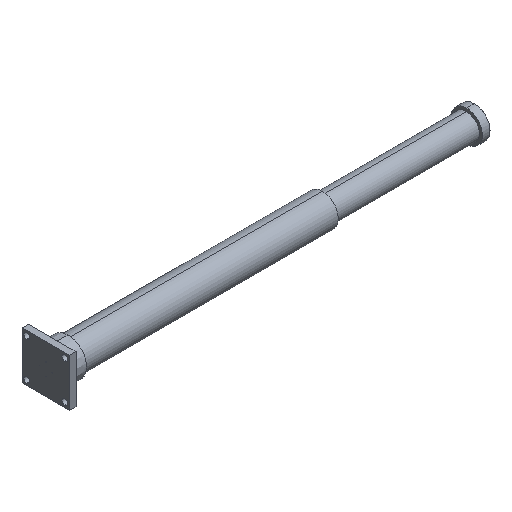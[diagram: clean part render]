
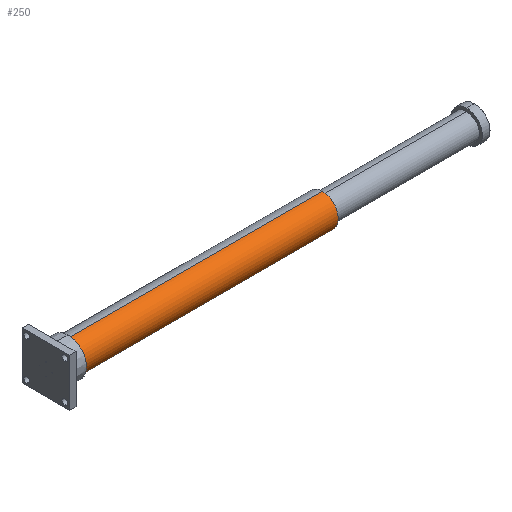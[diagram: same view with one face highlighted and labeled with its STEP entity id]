
A CAD part, isometric view. The second image highlights one B-rep face of the part: STEP entity #250.
In plain terms, the highlighted cylindrical face has radius 50 mm (diameter 100 mm), a partial arc.
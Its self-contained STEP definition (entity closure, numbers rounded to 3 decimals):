
#25 = CARTESIAN_POINT ( 'NONE',  ( 50., 0., -50. ) ) ;
#93 = DIRECTION ( 'NONE',  ( 0., 0., 1. ) ) ;
#142 = DIRECTION ( 'NONE',  ( -1., 0., 0. ) ) ;
#162 = CIRCLE ( 'NONE', #868, 50. ) ;
#211 = DIRECTION ( 'NONE',  ( 0., 0., 1. ) ) ;
#217 = DIRECTION ( 'NONE',  ( -1., 0., 0. ) ) ;
#239 = CARTESIAN_POINT ( 'NONE',  ( 850., 0., 0. ) ) ;
#250 = ADVANCED_FACE ( 'NONE', ( #510 ), #949, .T. ) ;
#311 = EDGE_LOOP ( 'NONE', ( #1038, #1000, #909, #421 ) ) ;
#342 = VERTEX_POINT ( 'NONE', #467 ) ;
#346 = VERTEX_POINT ( 'NONE', #537 ) ;
#374 = AXIS2_PLACEMENT_3D ( 'NONE', #971, #1162, #93 ) ;
#405 = CIRCLE ( 'NONE', #1131, 50. ) ;
#421 = ORIENTED_EDGE ( 'NONE', *, *, #710, .T. ) ;
#467 = CARTESIAN_POINT ( 'NONE',  ( 50., 0., 50. ) ) ;
#510 = FACE_OUTER_BOUND ( 'NONE', #311, .T. ) ;
#537 = CARTESIAN_POINT ( 'NONE',  ( 850., 0., -50. ) ) ;
#631 = CARTESIAN_POINT ( 'NONE',  ( 850., 0., -50. ) ) ;
#710 = EDGE_CURVE ( 'NONE', #342, #1088, #162, .T. ) ;
#775 = VERTEX_POINT ( 'NONE', #1071 ) ;
#793 = LINE ( 'NONE', #881, #820 ) ;
#820 = VECTOR ( 'NONE', #847, 1000. ) ;
#847 = DIRECTION ( 'NONE',  ( -1., 0., 0. ) ) ;
#862 = VECTOR ( 'NONE', #217, 1000. ) ;
#865 = EDGE_CURVE ( 'NONE', #346, #775, #405, .T. ) ;
#868 = AXIS2_PLACEMENT_3D ( 'NONE', #946, #950, #956 ) ;
#881 = CARTESIAN_POINT ( 'NONE',  ( 850., 0., 50. ) ) ;
#888 = LINE ( 'NONE', #631, #862 ) ;
#909 = ORIENTED_EDGE ( 'NONE', *, *, #968, .T. ) ;
#946 = CARTESIAN_POINT ( 'NONE',  ( 50., 0., 0. ) ) ;
#949 = CYLINDRICAL_SURFACE ( 'NONE', #374, 50. ) ;
#950 = DIRECTION ( 'NONE',  ( 1., 0., 0. ) ) ;
#956 = DIRECTION ( 'NONE',  ( 0., 0., 1. ) ) ;
#968 = EDGE_CURVE ( 'NONE', #775, #342, #793, .T. ) ;
#971 = CARTESIAN_POINT ( 'NONE',  ( 850., 0., 0. ) ) ;
#1000 = ORIENTED_EDGE ( 'NONE', *, *, #865, .T. ) ;
#1038 = ORIENTED_EDGE ( 'NONE', *, *, #1104, .F. ) ;
#1071 = CARTESIAN_POINT ( 'NONE',  ( 850., 0., 50. ) ) ;
#1088 = VERTEX_POINT ( 'NONE', #25 ) ;
#1104 = EDGE_CURVE ( 'NONE', #346, #1088, #888, .T. ) ;
#1131 = AXIS2_PLACEMENT_3D ( 'NONE', #239, #142, #211 ) ;
#1162 = DIRECTION ( 'NONE',  ( -1., 0., 0. ) ) ;
